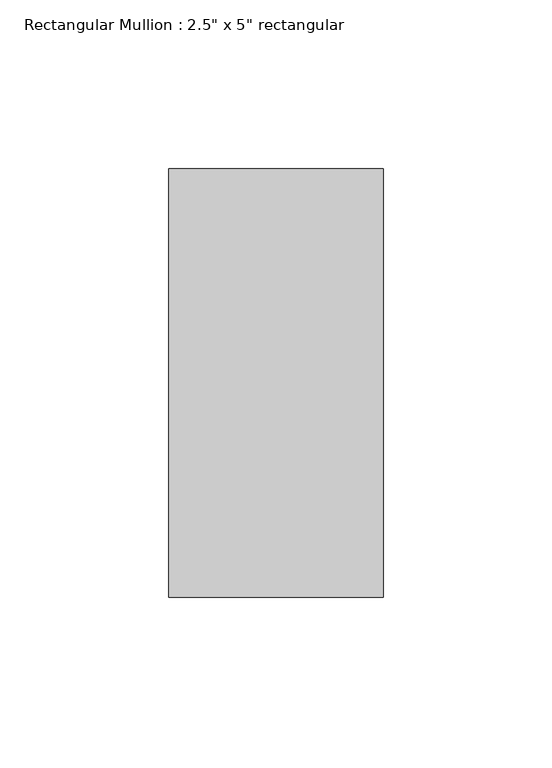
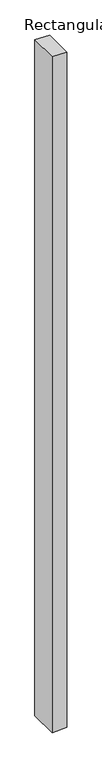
"""IFC4 building model written with IfcOpenShell, lengths in millimetres: member geometry."""

from ifc_helpers import new_model, si_unit, frame, origin, place, context, project, spatial, polyline, outline, extrude, source, transform, mapped, element, save


def member_adceca6a(model_context):
    return source(origin(), model_context, "Body", "SweptSolid", [
        extrude(outline(polyline([(0.0, 0.0), (1.2648961, -63.5), (-3054.3333755, -63.5), (-3052.9540502, 0.0), (0.0, 0.0)])), frame((0.0, -63.5, 0.0), z_axis=(0.0, 1.0, 0.0), x_axis=(0.0, 0.0, 1.0)), (0.0, 0.0, 1.0), 127.0),
    ])


if __name__ == "__main__":
    model = new_model("IFC4")
    model_context = context("Model", 3, world=origin())
    ifc_project = project(units=[si_unit("LENGTHUNIT", "METRE", prefix="MILLI")], contexts=[model_context])
    site = spatial("IfcSite", under=ifc_project)
    building = spatial("IfcBuilding", under=site)
    placement = place(None, origin())
    member_shape = member_adceca6a(model_context)
    element("IfcMember", 1, ObjectType="Rectangular Mullion : 2.5\" x 5\" rectangular", at=placement, inside=building, context=model_context, shape_type="MappedRepresentation", body=[
        mapped(member_shape, transform((0.0, 0.0, 0.0), x_axis=(1.0, 0.0, 0.0), y_axis=(0.0, 1.0, 0.0), z_axis=(0.0, 0.0, 1.0))),
    ])
    save(model, "model.ifc")
